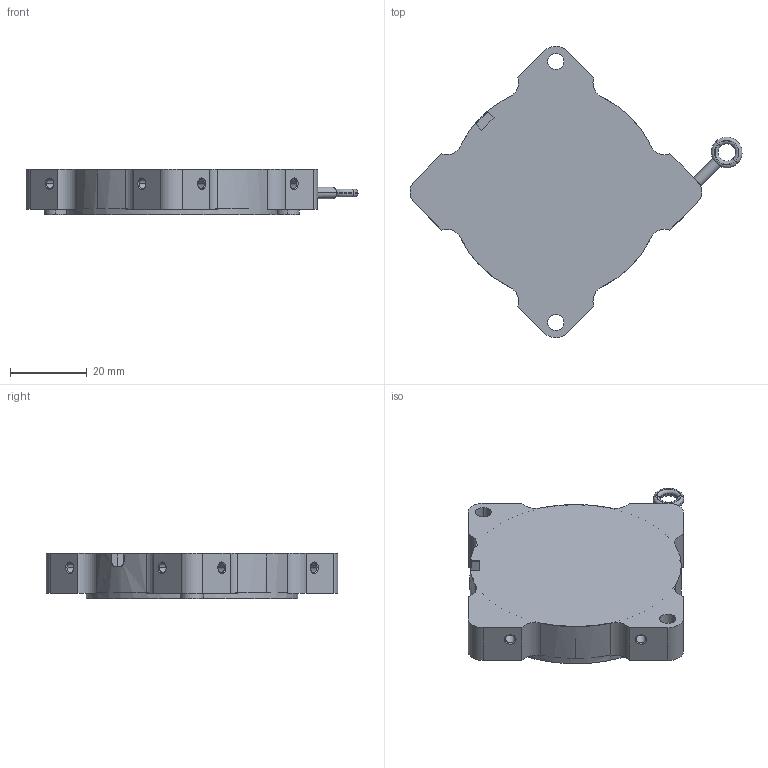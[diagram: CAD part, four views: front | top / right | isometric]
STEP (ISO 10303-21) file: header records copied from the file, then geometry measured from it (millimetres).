
FILE_DESCRIPTION((''),'2;1');
FILE_NAME('WDS-130-MT56-P_SW','2019-03-13T',('15000593'),(''),'PRO/ENGINEER BY PARAMETRIC TECHNOLOGY CORPORATION, 2015200','PRO/ENGINEER BY PARAMETRIC TECHNOLOGY CORPORATION, 2015200','');
FILE_SCHEMA(('CONFIG_CONTROL_DESIGN'));
Length unit declared in the file: millimetre
Products named in the file (1): WDS-130-MT56-P_SW
Bounding box: 86.37 x 75.85 x 11.9 mm (x, y, z)
Volume: 9211.2 mm3; surface area: 15960.7 mm2
Topology: 1 solids, 1 shells, 397 faces, 1090 edges, 716 vertices
Faces by surface type: extrusion 194, cylinder 80, plane 75, cone 32, torus 16
Entity records: 17235 total; most frequent: CARTESIAN_POINT 7970, ORIENTED_EDGE 2172, DIRECTION 1331, EDGE_CURVE 1086, B_SPLINE_CURVE_WITH_KNOTS 729, VERTEX_POINT 716, VECTOR 565, EDGE_LOOP 446
